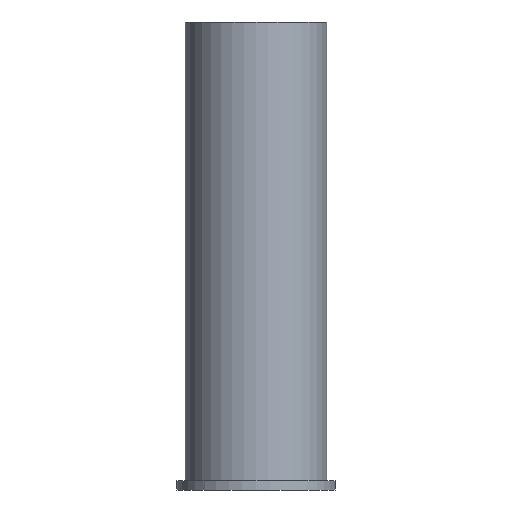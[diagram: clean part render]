
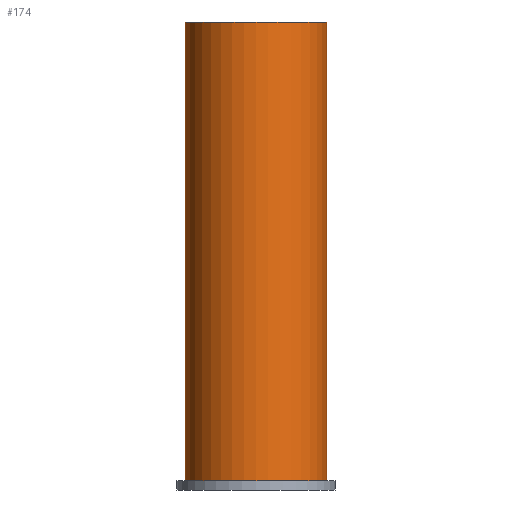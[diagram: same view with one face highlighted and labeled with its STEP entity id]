
A CAD part, front view. The second image highlights one B-rep face of the part: STEP entity #174.
In plain terms, the highlighted cylindrical face has radius 19.177 mm (diameter 38.354 mm), a full revolution.
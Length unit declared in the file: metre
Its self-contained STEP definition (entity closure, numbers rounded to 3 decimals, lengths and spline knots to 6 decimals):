
#41=ORIENTED_EDGE('',*,*,#67,.F.);
#42=ORIENTED_EDGE('',*,*,#69,.F.);
#67=EDGE_CURVE('',#82,#82,#97,.F.);
#69=EDGE_CURVE('',#84,#84,#99,.T.);
#82=VERTEX_POINT('',#291);
#84=VERTEX_POINT('',#297);
#97=CIRCLE('',#205,0.019177);
#99=CIRCLE('',#209,0.019177);
#113=EDGE_LOOP('',(#41));
#114=EDGE_LOOP('',(#42));
#143=FACE_BOUND('',#113,.T.);
#144=FACE_BOUND('',#114,.T.);
#167=CYLINDRICAL_SURFACE('',#208,0.019177);
#174=ADVANCED_FACE('',(#143,#144),#167,.T.);
#205=AXIS2_PLACEMENT_3D('',#290,#240,#241);
#208=AXIS2_PLACEMENT_3D('',#295,#246,#247);
#209=AXIS2_PLACEMENT_3D('',#296,#248,#249);
#240=DIRECTION('',(0.,0.,1.));
#241=DIRECTION('',(1.,0.,0.));
#246=DIRECTION('',(0.,0.,-1.));
#247=DIRECTION('',(-1.,0.,0.));
#248=DIRECTION('',(0.,0.,1.));
#249=DIRECTION('',(1.,0.,0.));
#290=CARTESIAN_POINT('',(0.,0.,0.00247));
#291=CARTESIAN_POINT('',(0.019177,0.,0.00247));
#295=CARTESIAN_POINT('',(0.,0.,0.0254));
#296=CARTESIAN_POINT('',(0.,0.,0.127));
#297=CARTESIAN_POINT('',(0.019177,0.,0.127));
